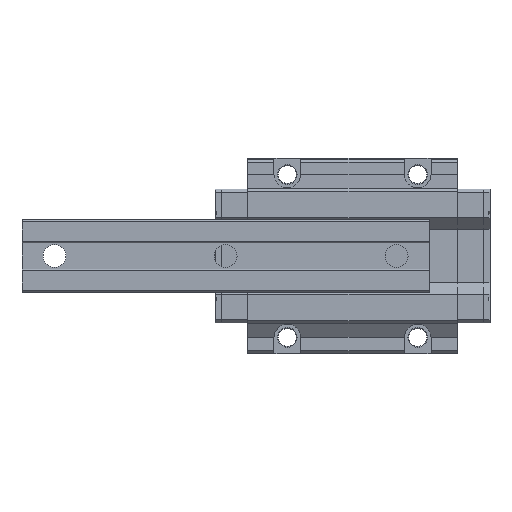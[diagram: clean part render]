
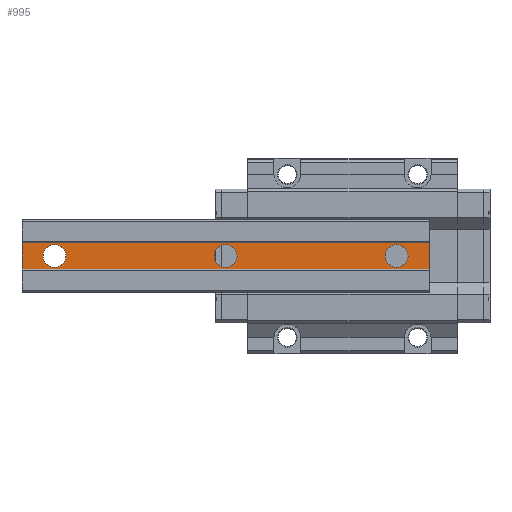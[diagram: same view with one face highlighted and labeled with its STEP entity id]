
A CAD part, front view. The second image highlights one B-rep face of the part: STEP entity #995.
In plain terms, the highlighted planar face has unit normal (0, -1, 0).
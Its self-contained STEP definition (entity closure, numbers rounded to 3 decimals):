
#995 = ADVANCED_FACE( '', ( #2241, #2242, #2243, #2244 ), #2245, .T. );
#2241 = FACE_BOUND( '', #3860, .T. );
#2242 = FACE_BOUND( '', #3861, .T. );
#2243 = FACE_BOUND( '', #3862, .T. );
#2244 = FACE_OUTER_BOUND( '', #3863, .T. );
#2245 = PLANE( '', #3864 );
#3860 = EDGE_LOOP( '', ( #6266 ) );
#3861 = EDGE_LOOP( '', ( #6267 ) );
#3862 = EDGE_LOOP( '', ( #6268 ) );
#3863 = EDGE_LOOP( '', ( #6269, #6270, #6271, #6272 ) );
#3864 = AXIS2_PLACEMENT_3D( '', #6273, #6274, #6275 );
#6266 = ORIENTED_EDGE( '', *, *, #10165, .F. );
#6267 = ORIENTED_EDGE( '', *, *, #10312, .F. );
#6268 = ORIENTED_EDGE( '', *, *, #10093, .F. );
#6269 = ORIENTED_EDGE( '', *, *, #10313, .F. );
#6270 = ORIENTED_EDGE( '', *, *, #10239, .F. );
#6271 = ORIENTED_EDGE( '', *, *, #10314, .T. );
#6272 = ORIENTED_EDGE( '', *, *, #9644, .T. );
#6273 = CARTESIAN_POINT( '', ( 125., 1., -8. ) );
#6274 = DIRECTION( '', ( 0., -1., 0. ) );
#6275 = DIRECTION( '', ( 0., 0., -1. ) );
#9644 = EDGE_CURVE( '', #11449, #11446, #11450, .T. );
#10093 = EDGE_CURVE( '', #12227, #12227, #12228, .T. );
#10165 = EDGE_CURVE( '', #12341, #12341, #12342, .T. );
#10239 = EDGE_CURVE( '', #12458, #12454, #12460, .T. );
#10312 = EDGE_CURVE( '', #12577, #12577, #12578, .T. );
#10313 = EDGE_CURVE( '', #12454, #11446, #12579, .T. );
#10314 = EDGE_CURVE( '', #12458, #11449, #12580, .T. );
#11446 = VERTEX_POINT( '', #14106 );
#11449 = VERTEX_POINT( '', #14110 );
#11450 = LINE( '', #14111, #14112 );
#12227 = VERTEX_POINT( '', #15230 );
#12228 = CIRCLE( '', #15231, 7. );
#12341 = VERTEX_POINT( '', #15397 );
#12342 = CIRCLE( '', #15398, 7. );
#12454 = VERTEX_POINT( '', #15561 );
#12458 = VERTEX_POINT( '', #15567 );
#12460 = LINE( '', #15570, #15571 );
#12577 = VERTEX_POINT( '', #15742 );
#12578 = CIRCLE( '', #15743, 7. );
#12579 = LINE( '', #15744, #15745 );
#12580 = LINE( '', #15746, #15747 );
#14106 = CARTESIAN_POINT( '', ( -125., 1., 8. ) );
#14110 = CARTESIAN_POINT( '', ( 125., 1., 8. ) );
#14111 = CARTESIAN_POINT( '', ( 125., 1., 8. ) );
#14112 = VECTOR( '', #17914, 1000. );
#15230 = CARTESIAN_POINT( '', ( 0., 1., -7. ) );
#15231 = AXIS2_PLACEMENT_3D( '', #18366, #18367, #18368 );
#15397 = CARTESIAN_POINT( '', ( -105., 1., -7. ) );
#15398 = AXIS2_PLACEMENT_3D( '', #18443, #18444, #18445 );
#15561 = CARTESIAN_POINT( '', ( -125., 1., -8. ) );
#15567 = CARTESIAN_POINT( '', ( 125., 1., -8. ) );
#15570 = CARTESIAN_POINT( '', ( 125., 1., -8. ) );
#15571 = VECTOR( '', #18517, 1000. );
#15742 = CARTESIAN_POINT( '', ( 105., 1., -7. ) );
#15743 = AXIS2_PLACEMENT_3D( '', #18590, #18591, #18592 );
#15744 = CARTESIAN_POINT( '', ( -125., 1., -8. ) );
#15745 = VECTOR( '', #18593, 1000. );
#15746 = CARTESIAN_POINT( '', ( 125., 1., -8. ) );
#15747 = VECTOR( '', #18594, 1000. );
#17914 = DIRECTION( '', ( -1., 0., 0. ) );
#18366 = CARTESIAN_POINT( '', ( 0., 1., 0. ) );
#18367 = DIRECTION( '', ( 0., -1., 0. ) );
#18368 = DIRECTION( '', ( 0., 0., -1. ) );
#18443 = CARTESIAN_POINT( '', ( -105., 1., 0. ) );
#18444 = DIRECTION( '', ( 0., -1., 0. ) );
#18445 = DIRECTION( '', ( 0., 0., -1. ) );
#18517 = DIRECTION( '', ( -1., 0., 0. ) );
#18590 = CARTESIAN_POINT( '', ( 105., 1., 0. ) );
#18591 = DIRECTION( '', ( 0., -1., 0. ) );
#18592 = DIRECTION( '', ( 0., 0., -1. ) );
#18593 = DIRECTION( '', ( 0., 0., 1. ) );
#18594 = DIRECTION( '', ( 0., 0., 1. ) );
